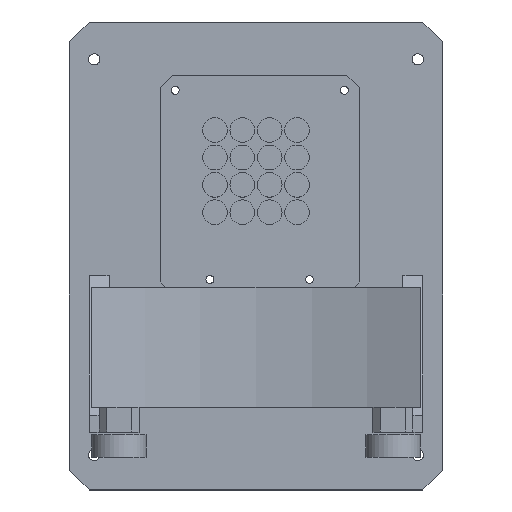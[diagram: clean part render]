
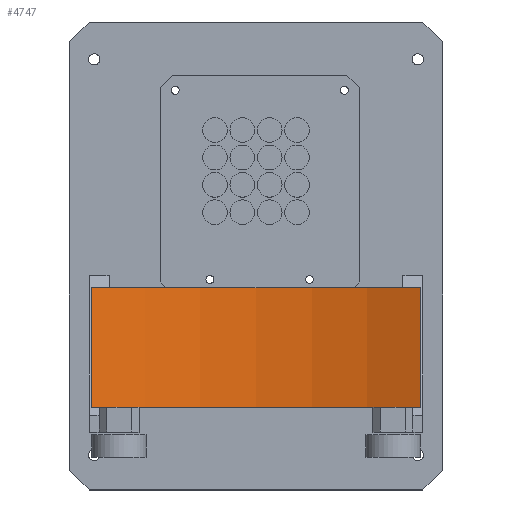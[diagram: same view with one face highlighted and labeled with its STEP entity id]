
A CAD part, top view. The second image highlights one B-rep face of the part: STEP entity #4747.
In plain terms, the highlighted cylindrical face has radius 160 mm (diameter 320 mm), a partial arc.
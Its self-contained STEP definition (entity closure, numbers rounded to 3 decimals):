
#62 = EDGE_CURVE ( 'NONE', #4522, #268, #2486, .T. ) ;
#268 = VERTEX_POINT ( 'NONE', #539 ) ;
#272 = DIRECTION ( 'NONE',  ( 0., 0., -1. ) ) ;
#539 = CARTESIAN_POINT ( 'NONE',  ( 66., -21.247, 0. ) ) ;
#795 = CARTESIAN_POINT ( 'NONE',  ( -66., -21.247, 0. ) ) ;
#976 = AXIS2_PLACEMENT_3D ( 'NONE', #3049, #272, #4370 ) ;
#1153 = CIRCLE ( 'NONE', #976, 160. ) ;
#1537 = LINE ( 'NONE', #2350, #5621 ) ;
#1701 = DIRECTION ( 'NONE',  ( 0., 0., -1. ) ) ;
#1773 = CARTESIAN_POINT ( 'NONE',  ( 0., -167., 8. ) ) ;
#2197 = VERTEX_POINT ( 'NONE', #3123 ) ;
#2273 = EDGE_CURVE ( 'NONE', #2197, #4522, #1153, .T. ) ;
#2297 = VERTEX_POINT ( 'NONE', #795 ) ;
#2350 = CARTESIAN_POINT ( 'NONE',  ( -66., -21.247, 8. ) ) ;
#2356 = AXIS2_PLACEMENT_3D ( 'NONE', #1773, #5372, #4939 ) ;
#2486 = LINE ( 'NONE', #3609, #4304 ) ;
#2537 = EDGE_LOOP ( 'NONE', ( #4067, #3136, #3866, #2695 ) ) ;
#2695 = ORIENTED_EDGE ( 'NONE', *, *, #4755, .T. ) ;
#2764 = AXIS2_PLACEMENT_3D ( 'NONE', #3063, #1701, #4856 ) ;
#3049 = CARTESIAN_POINT ( 'NONE',  ( 0., -167., 48. ) ) ;
#3063 = CARTESIAN_POINT ( 'NONE',  ( 0., -167., 0. ) ) ;
#3072 = CARTESIAN_POINT ( 'NONE',  ( 66., -21.247, 48. ) ) ;
#3123 = CARTESIAN_POINT ( 'NONE',  ( -66., -21.247, 48. ) ) ;
#3136 = ORIENTED_EDGE ( 'NONE', *, *, #62, .F. ) ;
#3548 = EDGE_CURVE ( 'NONE', #2297, #268, #4545, .T. ) ;
#3609 = CARTESIAN_POINT ( 'NONE',  ( 66., -21.247, 8. ) ) ;
#3739 = DIRECTION ( 'NONE',  ( 0., 0., -1. ) ) ;
#3866 = ORIENTED_EDGE ( 'NONE', *, *, #2273, .F. ) ;
#4067 = ORIENTED_EDGE ( 'NONE', *, *, #3548, .T. ) ;
#4304 = VECTOR ( 'NONE', #5811, 1000. ) ;
#4370 = DIRECTION ( 'NONE',  ( 1., 0., 0. ) ) ;
#4522 = VERTEX_POINT ( 'NONE', #3072 ) ;
#4545 = CIRCLE ( 'NONE', #2764, 160. ) ;
#4747 = ADVANCED_FACE ( 'NONE', ( #5433 ), #4998, .F. ) ;
#4755 = EDGE_CURVE ( 'NONE', #2197, #2297, #1537, .T. ) ;
#4856 = DIRECTION ( 'NONE',  ( 1., 0., 0. ) ) ;
#4939 = DIRECTION ( 'NONE',  ( -1., 0., 0. ) ) ;
#4998 = CYLINDRICAL_SURFACE ( 'NONE', #2356, 160. ) ;
#5372 = DIRECTION ( 'NONE',  ( 0., 0., -1. ) ) ;
#5433 = FACE_OUTER_BOUND ( 'NONE', #2537, .T. ) ;
#5621 = VECTOR ( 'NONE', #3739, 1000. ) ;
#5811 = DIRECTION ( 'NONE',  ( 0., 0., -1. ) ) ;
